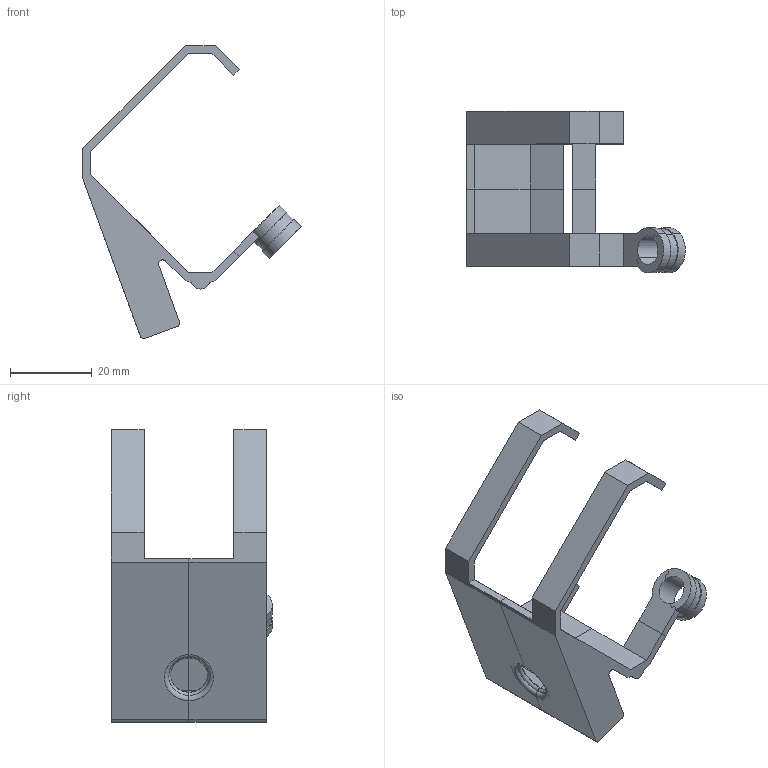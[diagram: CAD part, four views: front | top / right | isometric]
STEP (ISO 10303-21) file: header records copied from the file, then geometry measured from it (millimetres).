
FILE_DESCRIPTION(/* description */ (''),/* implementation_level */ '2;1');
FILE_NAME(/* name */ '/Users/scopalme/Library/Mobile Documents/com~apple~CloudDocs/3D Modeling/Printers/Prusa Mini/mini pi camera mount/Pi Camera Mount.step',/* time_stamp */ '2020-11-17T09:15:25-05:00',/* author */ (''),/* organization */ (''),/* preprocessor_version */ 'ST-DEVELOPER v18.1',/* originating_system */ 'Autodesk Translation Framework v9.3.0.1241',/* authorisation */ '');
FILE_SCHEMA (('AUTOMOTIVE_DESIGN { 1 0 10303 214 3 1 1 }'));
Length unit declared in the file: millimetre
Products named in the file (1): Pi Camera Mount
Bounding box: 53.61 x 39.49 x 71.86 mm (x, y, z)
Volume: 13003.9 mm3; surface area: 11517.7 mm2
Topology: 4 solids, 4 shells, 152 faces, 400 edges, 264 vertices
Faces by surface type: plane 110, cylinder 38, torus 4
Full cylindrical faces by diameter (mm): 2 x4, 2.5 x4
Entity records: 4706 total; most frequent: CARTESIAN_POINT 817, DIRECTION 802, ORIENTED_EDGE 800, EDGE_CURVE 400, LINE 304, VECTOR 304, VERTEX_POINT 264, AXIS2_PLACEMENT_3D 249
